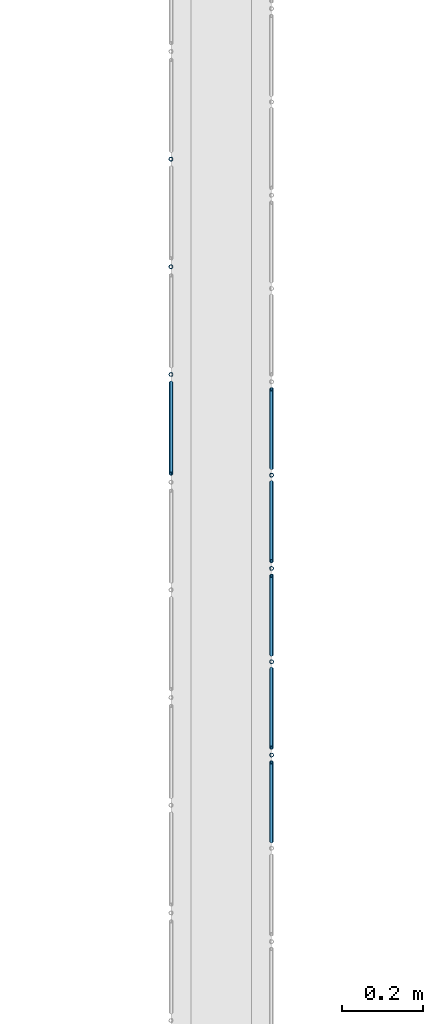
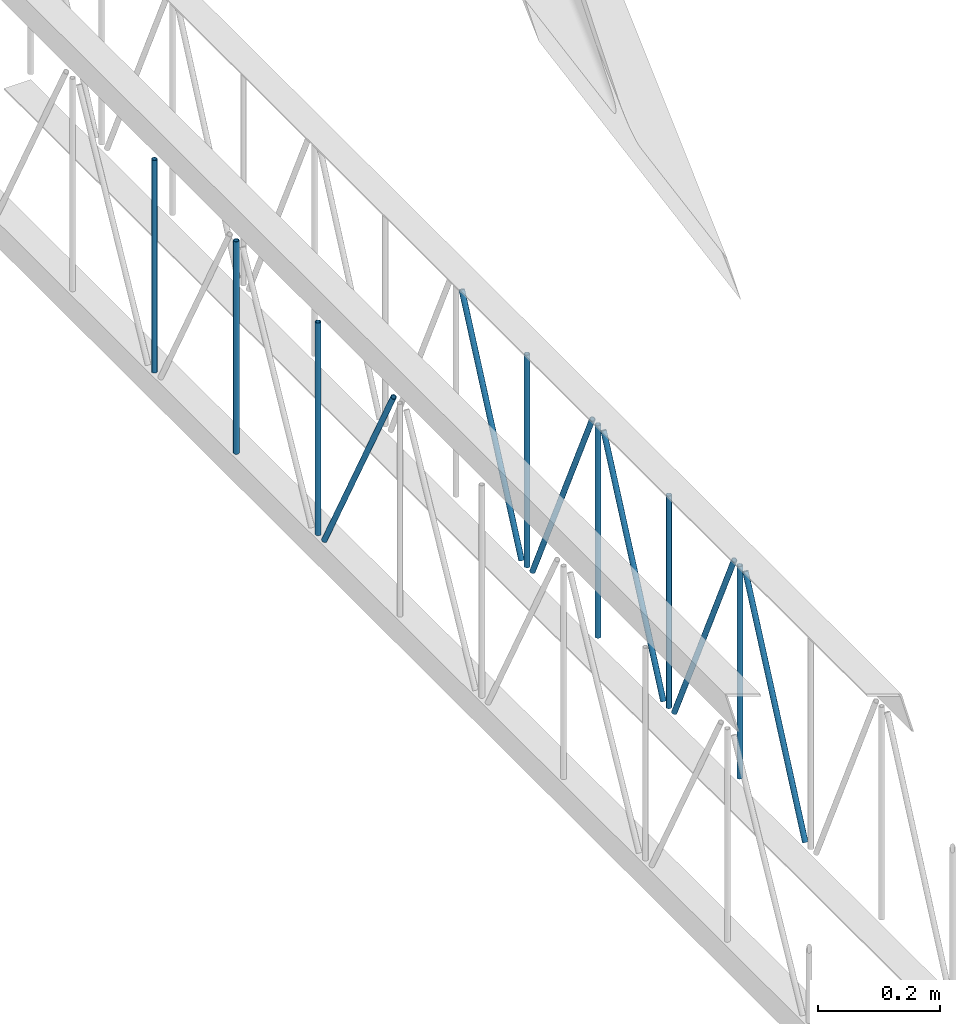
# One storey, part 40 of 153: 13 members, 2 elements without a shape of their own.
"""IFC4 building model written with IfcOpenShell, lengths in metres."""

from ifc_helpers import new_model, entity, si_unit, converted_unit, derived_unit, direction, frame, origin, place, context, subcontext, project, spatial, arc, indexed_curve, outline, extrude, source, transform, mapped, material, type_object, type_shapes, element, aggregate, save


model = new_model("IFC4")

# Units and contexts
model_context = context("Model", 3, precision=1e-05, world=origin(), true_north=direction((6.123031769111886e-17, 1.0)))
body_context = subcontext(model_context, "Body", "Model", "MODEL_VIEW")
ifc_project = project(units=[si_unit("LENGTHUNIT", "METRE"), si_unit("AREAUNIT", "SQUARE_METRE"), si_unit("VOLUMEUNIT", "CUBIC_METRE"), converted_unit("PLANEANGLEUNIT", "DEGREE", entity("IfcRatioMeasure", 0.017453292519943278), si_unit("PLANEANGLEUNIT", "RADIAN"), dimensions=[0, 0, 0, 0, 0, 0, 0]), si_unit("MASSUNIT", "GRAM", prefix="KILO"), derived_unit("MASSDENSITYUNIT", [(si_unit("MASSUNIT", "GRAM", prefix="KILO"), 1), (si_unit("LENGTHUNIT", "METRE"), -3)]), derived_unit("MOMENTOFINERTIAUNIT", [(si_unit("LENGTHUNIT", "METRE"), 4)]), si_unit("TIMEUNIT", "SECOND"), si_unit("FREQUENCYUNIT", "HERTZ"), si_unit("THERMODYNAMICTEMPERATUREUNIT", "DEGREE_CELSIUS"), derived_unit("THERMALTRANSMITTANCEUNIT", [(si_unit("MASSUNIT", "GRAM", prefix="KILO"), 1), (si_unit("THERMODYNAMICTEMPERATUREUNIT", "KELVIN"), -1), (si_unit("TIMEUNIT", "SECOND"), -3)]), derived_unit("VOLUMETRICFLOWRATEUNIT", [(si_unit("LENGTHUNIT", "METRE"), 3), (si_unit("TIMEUNIT", "SECOND"), -1)]), derived_unit("MASSFLOWRATEUNIT", [(si_unit("MASSUNIT", "GRAM", prefix="KILO"), 1), (si_unit("TIMEUNIT", "SECOND"), -1)]), derived_unit("ROTATIONALFREQUENCYUNIT", [(si_unit("TIMEUNIT", "SECOND"), -1)]), si_unit("ELECTRICCURRENTUNIT", "AMPERE"), si_unit("ELECTRICVOLTAGEUNIT", "VOLT"), si_unit("POWERUNIT", "WATT"), si_unit("FORCEUNIT", "NEWTON", prefix="KILO"), si_unit("ILLUMINANCEUNIT", "LUX"), si_unit("LUMINOUSFLUXUNIT", "LUMEN"), si_unit("LUMINOUSINTENSITYUNIT", "CANDELA"), derived_unit("USERDEFINED", [(si_unit("MASSUNIT", "GRAM", prefix="KILO"), -1), (si_unit("LENGTHUNIT", "METRE"), -2), (si_unit("TIMEUNIT", "SECOND"), 3), (si_unit("LUMINOUSFLUXUNIT", "LUMEN"), 1)]), derived_unit("SOUNDPOWERUNIT", [(si_unit("MASSUNIT", "GRAM", prefix="KILO"), 1), (si_unit("LENGTHUNIT", "METRE"), 2), (si_unit("TIMEUNIT", "SECOND"), -3)]), derived_unit("SOUNDPRESSUREUNIT", [(si_unit("MASSUNIT", "GRAM", prefix="KILO"), 1), (si_unit("LENGTHUNIT", "METRE"), -1), (si_unit("TIMEUNIT", "SECOND"), -2)]), derived_unit("LINEARVELOCITYUNIT", [(si_unit("LENGTHUNIT", "METRE"), 1), (si_unit("TIMEUNIT", "SECOND"), -1)]), si_unit("PRESSUREUNIT", "PASCAL"), derived_unit("USERDEFINED", [(si_unit("LENGTHUNIT", "METRE"), -2), (si_unit("MASSUNIT", "GRAM", prefix="KILO"), 1), (si_unit("TIMEUNIT", "SECOND"), -2)]), derived_unit("LINEARFORCEUNIT", [(si_unit("MASSUNIT", "GRAM", prefix="KILO"), 1), (si_unit("LENGTHUNIT", "METRE"), 1), (si_unit("TIMEUNIT", "SECOND"), -2), (si_unit("LENGTHUNIT", "METRE"), -1)]), derived_unit("PLANARFORCEUNIT", [(si_unit("MASSUNIT", "GRAM", prefix="KILO"), 1), (si_unit("LENGTHUNIT", "METRE"), 1), (si_unit("TIMEUNIT", "SECOND"), -2), (si_unit("LENGTHUNIT", "METRE"), -2)])], contexts=[model_context])

# Site, building, storey
site_placement = place(None, origin())
site = spatial("IfcSite", under=ifc_project, at=site_placement, Name="Superficie", CompositionType="ELEMENT")
building_placement = place(site_placement, origin())
building = spatial("IfcBuilding", under=site, at=building_placement, CompositionType="ELEMENT")
storey_placement = place(building_placement, frame((0.0, 0.0, 3.5999999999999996)))
storey = spatial("IfcBuildingStorey", under=building, at=storey_placement, Name="Nivel 1", CompositionType="ELEMENT", Elevation=3.5999999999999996)

# Assembly, members
assembly_1_placement = place(storey_placement, origin())
assembly_1 = element("IfcElementAssembly", 1, at=assembly_1_placement, inside=storey, Name="Viga de celosia 13:Viga de celosia 13", ObjectType="Viga de celosia 13:Viga de celosia 13", AssemblyPlace="NOTDEFINED", PredefinedType="TRUSS")
ifc_material = material(Name="Metal - Calibre delgado", Category="Metal")
member_type_1 = type_object("IfcMemberType", Name="HSS-Tubo estructural redondo:HSS 0.01", PredefinedType="BRACE", material=ifc_material)
shared_shape_1 = source(origin(), body_context, "Body", "SweptSolid", [
    extrude(outline(indexed_curve([(-0.005000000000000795, 7.502054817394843e-18), (-9.800269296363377e-18, -0.005000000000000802), (0.005000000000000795, -7.502054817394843e-18), (8.07772287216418e-18, 0.005000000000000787)], segments=[arc(1, 2, 3), arc(3, 4, 1)], self_intersect=False), holes=[indexed_curve([(0.003999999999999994, 7.222511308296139e-17), (6.910645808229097e-17, -0.004000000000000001), (-0.003999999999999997, -1.8650054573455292e-17), (-2.9156497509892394e-17, 0.003999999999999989)], segments=[arc(1, 2, 3), arc(3, 4, 1)], self_intersect=False)]), frame((-0.21200000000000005, 0.0, 0.0), z_axis=(1.0, 0.0, 0.0), x_axis=(0.0, 1.0, 0.0)), (0.0, 0.0, 1.0), 0.4240000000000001),
])
type_shapes(member_type_1, [shared_shape_1])
member_1_placement = place(assembly_1_placement, frame((-3.9132009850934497, -11.071002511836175, 0.24999999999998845), z_axis=(0.0, 1.0, 0.0), x_axis=(0.0, 0.0, 1.0)))
member_1 = element("IfcMember", 2, at=member_1_placement, type_object=member_type_1, material=ifc_material, Name="HSS-Tubo estructural redondo:HSS 0.01", ObjectType="HSS-Tubo estructural redondo:HSS 0.01", PredefinedType="BRACE", context=body_context, shape_type="MappedRepresentation", body=[
    mapped(shared_shape_1, transform((0.0, 0.0, 0.0), scale=1.0)),
])
member_2_placement = place(assembly_1_placement, frame((-3.9132009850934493, -10.803502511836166, 0.25), z_axis=(0.0, 1.0, 0.0), x_axis=(0.0, 0.0, 1.0)))
member_2 = element("IfcMember", 3, at=member_2_placement, type_object=member_type_1, material=ifc_material, Name="HSS-Tubo estructural redondo:HSS 0.01", ObjectType="HSS-Tubo estructural redondo:HSS 0.01", PredefinedType="BRACE", context=body_context, shape_type="MappedRepresentation", body=[
    mapped(shared_shape_1, transform((0.0, 0.0, 0.0), scale=1.0)),
])
member_3_placement = place(assembly_1_placement, frame((-3.913200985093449, -10.536002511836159, 0.25), z_axis=(0.0, 1.0, 0.0), x_axis=(0.0, 0.0, 1.0)))
member_3 = element("IfcMember", 4, at=member_3_placement, type_object=member_type_1, material=ifc_material, Name="HSS-Tubo estructural redondo:HSS 0.01", ObjectType="HSS-Tubo estructural redondo:HSS 0.01", PredefinedType="BRACE", context=body_context, shape_type="MappedRepresentation", body=[
    mapped(shared_shape_1, transform((0.0, 0.0, 0.0), scale=1.0)),
])

assembly_2_placement = place(storey_placement, origin())
assembly_2 = element("IfcElementAssembly", 5, at=assembly_2_placement, inside=storey, Name="Viga de celosia 13:Viga de celosia 13", ObjectType="Viga de celosia 13:Viga de celosia 13", AssemblyPlace="NOTDEFINED", PredefinedType="TRUSS")
member_type_2 = type_object("IfcMemberType", Name="HSS-Tubo estructural redondo:HSS 0.01", PredefinedType="BRACE", material=ifc_material)
shared_shape_2 = source(origin(), body_context, "Body", "SweptSolid", [
    extrude(outline(indexed_curve([(-0.005000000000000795, 2.0824731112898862e-17), (-2.3122945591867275e-17, -0.005000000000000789), (0.005000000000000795, -2.08247311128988e-17), (2.14003991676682e-17, 0.005000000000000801)], segments=[arc(1, 2, 3), arc(3, 4, 1)], self_intersect=False), holes=[indexed_curve([(0.003999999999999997, -1.3094283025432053e-17), (-1.531427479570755e-18, -0.003999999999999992), (-0.004, 4.0098531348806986e-17), (4.1481388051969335e-17, 0.0039999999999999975)], segments=[arc(1, 2, 3), arc(3, 4, 1)], self_intersect=False)]), frame((-0.21200000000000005, 0.0, 0.0), z_axis=(1.0, 0.0, 0.0), x_axis=(0.0, -1.0, 0.0)), (0.0, 0.0, 1.0), 0.4240000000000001),
])
type_shapes(member_type_2, [shared_shape_2])
member_4_placement = place(assembly_2_placement, frame((-3.6632009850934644, -12.01635965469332, 0.25), z_axis=(0.0, 1.0, 0.0), x_axis=(0.0, 0.0, 1.0)))
member_4 = element("IfcMember", 6, at=member_4_placement, type_object=member_type_2, material=ifc_material, Name="HSS-Tubo estructural redondo:HSS 0.01", ObjectType="HSS-Tubo estructural redondo:HSS 0.01", PredefinedType="BRACE", context=body_context, shape_type="MappedRepresentation", body=[
    mapped(shared_shape_2, transform((0.0, 0.0, 0.0), scale=1.0)),
])
member_5_placement = place(assembly_2_placement, frame((-3.663200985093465, -11.784573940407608, 0.25), z_axis=(0.0, 1.0, 0.0), x_axis=(0.0, 0.0, 1.0)))
member_5 = element("IfcMember", 7, at=member_5_placement, type_object=member_type_2, material=ifc_material, Name="HSS-Tubo estructural redondo:HSS 0.01", ObjectType="HSS-Tubo estructural redondo:HSS 0.01", PredefinedType="BRACE", context=body_context, shape_type="MappedRepresentation", body=[
    mapped(shared_shape_2, transform((0.0, 0.0, 0.0), scale=1.0)),
])
member_6_placement = place(assembly_2_placement, frame((-3.6632009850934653, -11.552788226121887, 0.25), z_axis=(0.0, 1.0, 0.0), x_axis=(0.0, 0.0, 1.0)))
member_6 = element("IfcMember", 8, at=member_6_placement, type_object=member_type_2, material=ifc_material, Name="HSS-Tubo estructural redondo:HSS 0.01", ObjectType="HSS-Tubo estructural redondo:HSS 0.01", PredefinedType="BRACE", context=body_context, shape_type="MappedRepresentation", body=[
    mapped(shared_shape_2, transform((0.0, 0.0, 0.0), scale=1.0)),
])
member_7_placement = place(assembly_2_placement, frame((-3.6632009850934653, -11.321002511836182, 0.24999999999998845), z_axis=(0.0, 1.0, 0.0), x_axis=(0.0, 0.0, 1.0)))
member_7 = element("IfcMember", 9, at=member_7_placement, type_object=member_type_2, material=ifc_material, Name="HSS-Tubo estructural redondo:HSS 0.01", ObjectType="HSS-Tubo estructural redondo:HSS 0.01", PredefinedType="BRACE", context=body_context, shape_type="MappedRepresentation", body=[
    mapped(shared_shape_2, transform((0.0, 0.0, 0.0), scale=1.0)),
])

# Member
member_type_3 = type_object("IfcMemberType", Name="HSS-Tubo estructural redondo:HSS 0.01", PredefinedType="BRACE", material=ifc_material)
shared_shape_3 = source(origin(), body_context, "Body", "SweptSolid", [
    extrude(outline(indexed_curve([(-0.005000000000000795, 7.502054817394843e-18), (-9.800269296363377e-18, -0.005000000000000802), (0.005000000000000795, -7.502054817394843e-18), (8.07772287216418e-18, 0.005000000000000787)], segments=[arc(1, 2, 3), arc(3, 4, 1)], self_intersect=False), holes=[indexed_curve([(0.003999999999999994, 7.222511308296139e-17), (6.910645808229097e-17, -0.004000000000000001), (-0.003999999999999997, -1.8650054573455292e-17), (-2.9156497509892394e-17, 0.003999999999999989)], segments=[arc(1, 2, 3), arc(3, 4, 1)], self_intersect=False)]), frame((-0.23950000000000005, 0.0, 0.0), z_axis=(1.0, 0.0, 0.0), x_axis=(0.0, 1.0, 0.0)), (0.0, 0.0, 1.0), 0.4790000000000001),
])
type_shapes(member_type_3, [shared_shape_3])
member_8_placement = place(assembly_1_placement, frame((-3.9132009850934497, -11.204752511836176, 0.2500000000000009), z_axis=(0.0, -0.8817419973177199, -0.47173196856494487), x_axis=(0.0, 0.47173196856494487, -0.8817419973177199)))
member_8 = element("IfcMember", 10, at=member_8_placement, type_object=member_type_3, material=ifc_material, Name="HSS-Tubo estructural redondo:HSS 0.01", ObjectType="HSS-Tubo estructural redondo:HSS 0.01", PredefinedType="BRACE", context=body_context, shape_type="MappedRepresentation", body=[
    mapped(shared_shape_3, transform((0.0, 0.0, 0.0), scale=1.0)),
])

aggregate(assembly_1, [member_1, member_2, member_3, member_8])

member_type_4 = type_object("IfcMemberType", Name="HSS-Tubo estructural redondo:HSS 0.01", PredefinedType="BRACE", material=ifc_material)
shared_shape_4 = source(origin(), body_context, "Body", "SweptSolid", [
    extrude(outline(indexed_curve([(-0.005000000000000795, 2.0824731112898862e-17), (-2.3122945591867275e-17, -0.005000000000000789), (0.005000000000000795, -2.08247311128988e-17), (2.14003991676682e-17, 0.005000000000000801)], segments=[arc(1, 2, 3), arc(3, 4, 1)], self_intersect=False), holes=[indexed_curve([(0.003999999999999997, -1.3094283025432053e-17), (-1.531427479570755e-18, -0.003999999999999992), (-0.004, 4.0098531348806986e-17), (4.1481388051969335e-17, 0.0039999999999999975)], segments=[arc(1, 2, 3), arc(3, 4, 1)], self_intersect=False)]), frame((-0.2325, 0.0, 0.0), z_axis=(1.0, 0.0, 0.0), x_axis=(0.0, -1.0, 0.0)), (0.0, 0.0, 1.0), 0.465),
])
type_shapes(member_type_4, [shared_shape_4])
member_9_placement = place(assembly_2_placement, frame((-3.6632009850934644, -12.13225251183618, 0.25), z_axis=(0.0, 0.9072563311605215, -0.4205781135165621), x_axis=(0.0, 0.4205781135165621, 0.9072563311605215)))
member_9 = element("IfcMember", 11, at=member_9_placement, type_object=member_type_4, material=ifc_material, Name="HSS-Tubo estructural redondo:HSS 0.01", ObjectType="HSS-Tubo estructural redondo:HSS 0.01", PredefinedType="BRACE", context=body_context, shape_type="MappedRepresentation", body=[
    mapped(shared_shape_4, transform((0.0, 0.0, 0.0), scale=1.0)),
])

member_10_placement = place(assembly_2_placement, frame((-3.6632009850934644, -11.900466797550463, 0.25), z_axis=(0.0, -0.907256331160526, -0.4205781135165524), x_axis=(0.0, 0.4205781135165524, -0.907256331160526)))
member_10 = element("IfcMember", 12, at=member_10_placement, type_object=member_type_4, material=ifc_material, Name="HSS-Tubo estructural redondo:HSS 0.01", ObjectType="HSS-Tubo estructural redondo:HSS 0.01", PredefinedType="BRACE", context=body_context, shape_type="MappedRepresentation", body=[
    mapped(shared_shape_4, transform((0.0, 0.0, 0.0), scale=1.0)),
])

member_11_placement = place(assembly_2_placement, frame((-3.6632009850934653, -11.668681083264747, 0.2499999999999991), z_axis=(0.0, 0.90725633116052, -0.4205781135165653), x_axis=(0.0, 0.4205781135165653, 0.90725633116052)))
member_11 = element("IfcMember", 13, at=member_11_placement, type_object=member_type_4, material=ifc_material, Name="HSS-Tubo estructural redondo:HSS 0.01", ObjectType="HSS-Tubo estructural redondo:HSS 0.01", PredefinedType="BRACE", context=body_context, shape_type="MappedRepresentation", body=[
    mapped(shared_shape_4, transform((0.0, 0.0, 0.0), scale=1.0)),
])

member_12_placement = place(assembly_2_placement, frame((-3.6632009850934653, -11.436895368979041, 0.2500000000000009), z_axis=(0.0, -0.9072563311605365, -0.4205781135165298), x_axis=(0.0, 0.4205781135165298, -0.9072563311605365)))
member_12 = element("IfcMember", 14, at=member_12_placement, type_object=member_type_4, material=ifc_material, Name="HSS-Tubo estructural redondo:HSS 0.01", ObjectType="HSS-Tubo estructural redondo:HSS 0.01", PredefinedType="BRACE", context=body_context, shape_type="MappedRepresentation", body=[
    mapped(shared_shape_4, transform((0.0, 0.0, 0.0), scale=1.0)),
])

member_13_placement = place(assembly_2_placement, frame((-3.6632009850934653, -11.205109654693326, 0.25), z_axis=(0.0, 0.907256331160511, -0.42057811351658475), x_axis=(0.0, 0.42057811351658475, 0.907256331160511)))
member_13 = element("IfcMember", 15, at=member_13_placement, type_object=member_type_4, material=ifc_material, Name="HSS-Tubo estructural redondo:HSS 0.01", ObjectType="HSS-Tubo estructural redondo:HSS 0.01", PredefinedType="BRACE", context=body_context, shape_type="MappedRepresentation", body=[
    mapped(shared_shape_4, transform((0.0, 0.0, 0.0), scale=1.0)),
])

aggregate(assembly_2, [member_4, member_5, member_6, member_7, member_9, member_10, member_11, member_12, member_13])

save(model, "model.ifc")
